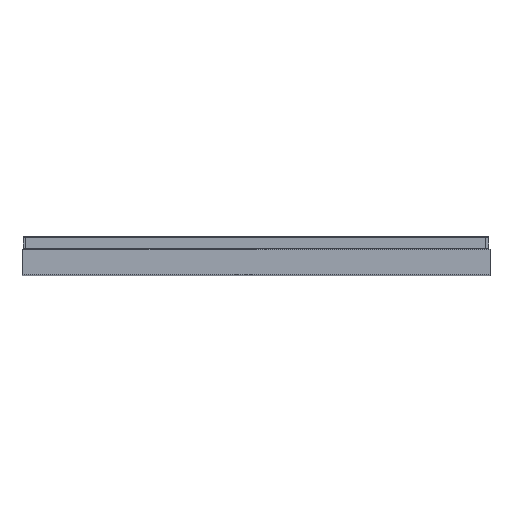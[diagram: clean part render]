
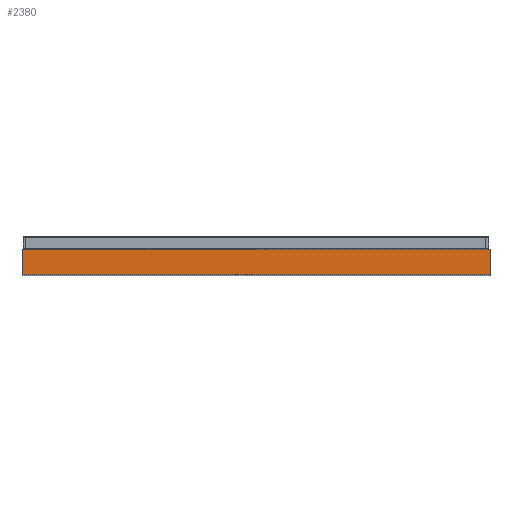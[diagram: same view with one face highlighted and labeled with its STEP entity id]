
A CAD part, top view. The second image highlights one B-rep face of the part: STEP entity #2380.
In plain terms, the highlighted planar face has unit normal (0, 0, 1).
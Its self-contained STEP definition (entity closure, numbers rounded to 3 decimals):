
#4 = CARTESIAN_POINT ( 'NONE',  ( 159.833, 261.697, 299.139 ) ) ;
#160 = CARTESIAN_POINT ( 'NONE',  ( 159.833, 252.697, 299.139 ) ) ;
#166 = VERTEX_POINT ( 'NONE', #2831 ) ;
#234 = LINE ( 'NONE', #2005, #363 ) ;
#275 = CARTESIAN_POINT ( 'NONE',  ( 327.833, 261.697, 299.139 ) ) ;
#347 = DIRECTION ( 'NONE',  ( 0., 0., -1. ) ) ;
#363 = VECTOR ( 'NONE', #2077, 1000. ) ;
#431 = PLANE ( 'NONE',  #2925 ) ;
#620 = EDGE_CURVE ( 'NONE', #2076, #718, #1691, .T. ) ;
#653 = FACE_OUTER_BOUND ( 'NONE', #2148, .T. ) ;
#718 = VERTEX_POINT ( 'NONE', #1170 ) ;
#774 = LINE ( 'NONE', #160, #3688 ) ;
#1094 = VERTEX_POINT ( 'NONE', #1296 ) ;
#1104 = DIRECTION ( 'NONE',  ( 0., -1., 0. ) ) ;
#1128 = VECTOR ( 'NONE', #1104, 1000. ) ;
#1153 = EDGE_CURVE ( 'NONE', #2076, #1094, #234, .T. ) ;
#1170 = CARTESIAN_POINT ( 'NONE',  ( 159.833, 252.697, 299.139 ) ) ;
#1221 = DIRECTION ( 'NONE',  ( 0., -1., 0. ) ) ;
#1296 = CARTESIAN_POINT ( 'NONE',  ( 327.833, 261.697, 299.139 ) ) ;
#1353 = ORIENTED_EDGE ( 'NONE', *, *, #1153, .F. ) ;
#1366 = ORIENTED_EDGE ( 'NONE', *, *, #620, .T. ) ;
#1691 = LINE ( 'NONE', #3932, #1128 ) ;
#1697 = DIRECTION ( 'NONE',  ( 1., 0., 0. ) ) ;
#1858 = EDGE_CURVE ( 'NONE', #718, #166, #774, .T. ) ;
#2005 = CARTESIAN_POINT ( 'NONE',  ( 159.833, 261.697, 299.139 ) ) ;
#2076 = VERTEX_POINT ( 'NONE', #4 ) ;
#2077 = DIRECTION ( 'NONE',  ( 1., 0., 0. ) ) ;
#2148 = EDGE_LOOP ( 'NONE', ( #2578, #3789, #1353, #1366 ) ) ;
#2214 = VECTOR ( 'NONE', #1221, 1000. ) ;
#2243 = CARTESIAN_POINT ( 'NONE',  ( 159.833, 261.697, 299.139 ) ) ;
#2380 = ADVANCED_FACE ( 'NONE', ( #653 ), #431, .F. ) ;
#2578 = ORIENTED_EDGE ( 'NONE', *, *, #1858, .T. ) ;
#2725 = LINE ( 'NONE', #275, #2214 ) ;
#2831 = CARTESIAN_POINT ( 'NONE',  ( 327.833, 252.697, 299.139 ) ) ;
#2925 = AXIS2_PLACEMENT_3D ( 'NONE', #2243, #347, #3465 ) ;
#3465 = DIRECTION ( 'NONE',  ( -1., 0., 0. ) ) ;
#3688 = VECTOR ( 'NONE', #1697, 1000. ) ;
#3789 = ORIENTED_EDGE ( 'NONE', *, *, #3971, .F. ) ;
#3932 = CARTESIAN_POINT ( 'NONE',  ( 159.833, 261.697, 299.139 ) ) ;
#3971 = EDGE_CURVE ( 'NONE', #1094, #166, #2725, .T. ) ;
